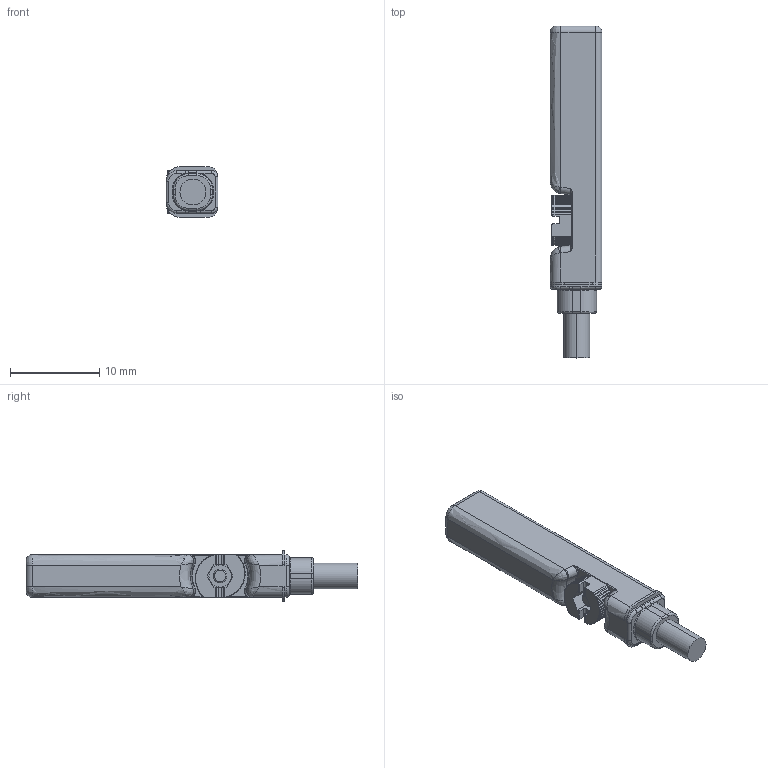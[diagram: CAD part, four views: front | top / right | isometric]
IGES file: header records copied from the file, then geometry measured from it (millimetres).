
Start section:  PTC IGES file: R412022858\r412022858.iges
Global section: file name: R412022858\r412022858.iges; native system: Creo Parametric by PTC Inc.; preprocessor: 2020044; author: THD3HC; organization: Unknown; date: 20231030.140036; units: millimetre
Bounding box: 5.8 x 37.2 x 5.7 mm (x, y, z)
Surface area: 770 mm2 (no closed solid volume)
Topology: 0 solids, 0 shells, 226 faces, 1346 edges, 1344 vertices
Faces by surface type: revolution 156, bspline 70
